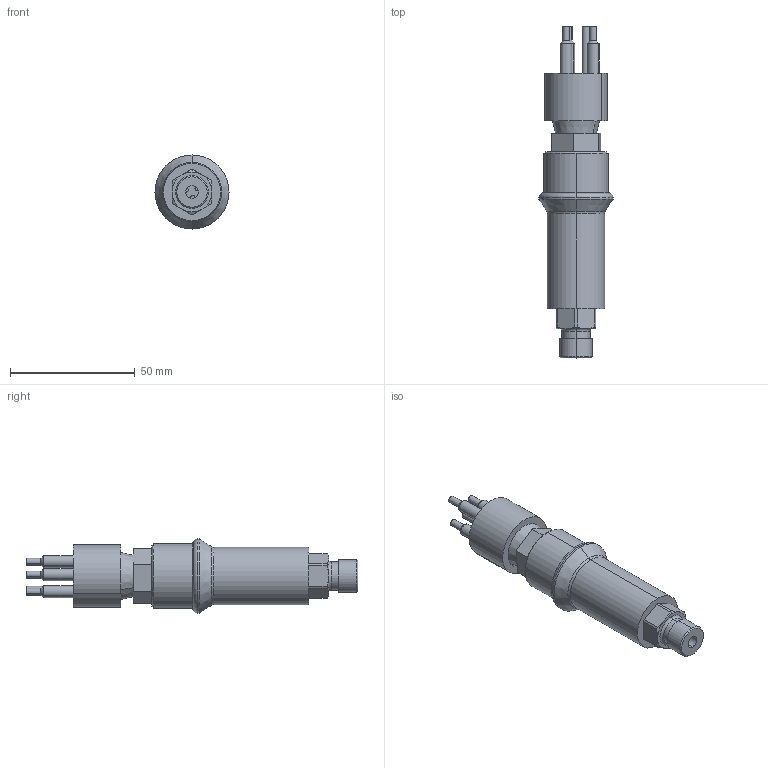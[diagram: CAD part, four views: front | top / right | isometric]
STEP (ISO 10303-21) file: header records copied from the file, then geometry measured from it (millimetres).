
FILE_DESCRIPTION (( 'STEP AP214' ), '1' );
FILE_NAME ('D-0417-DOD iss 1.STEP', '2024-05-26T14:56:48', ( '' ), ( '' ), 'SwSTEP 2.0', 'SolidWorks 2021', '' );
FILE_SCHEMA (( 'AUTOMOTIVE_DESIGN' ));
Length unit declared in the file: millimetre
Products named in the file (4): D-0096-M iss 2 - for Assembly Drawing; bh3m.stp; New Cover for Assembly Drawing; D-0417-DOD iss 1
Assembly tree (3 placements, depth 2):
  D-0417-DOD iss 1
    D-0096-M iss 2 - for Assembly Drawing
    New Cover for Assembly Drawing
    bh3m.stp
Bounding box: 29.71 x 133.2 x 29.71 mm (x, y, z)
Volume: 34444.4 mm3; surface area: 18629.6 mm2
Topology: 3 solids, 3 shells, 271 faces, 638 edges, 403 vertices
Faces by surface type: cylinder 98, plane 73, cone 43, bspline 33, torus 24
Entity records: 12782 total; most frequent: CARTESIAN_POINT 4794, ORIENTED_EDGE 1276, DIRECTION 1221, EDGE_CURVE 638, AXIS2_PLACEMENT_3D 478, VERTEX_POINT 403, EDGE_LOOP 305, FACE_OUTER_BOUND 271
